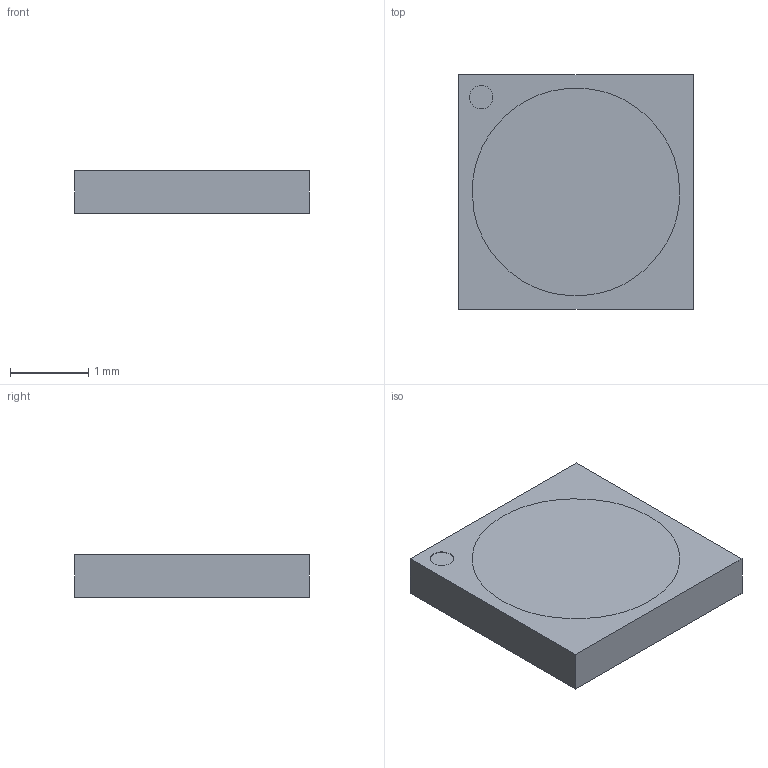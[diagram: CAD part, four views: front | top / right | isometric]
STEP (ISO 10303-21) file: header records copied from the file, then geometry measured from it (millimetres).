
FILE_DESCRIPTION (( 'STEP AP214' ), '1' );
FILE_NAME ('LWEB.STEP', '2024-01-24T19:59:50', ( '' ), ( '' ), 'SwSTEP 2.0', 'SolidWorks 2022', '' );
FILE_SCHEMA (( 'AUTOMOTIVE_DESIGN' ));
Length unit declared in the file: millimetre
Products named in the file (1): LWEB
Bounding box: 3 x 3 x 0.54 mm (x, y, z)
Volume: 4.9 mm3; surface area: 24.5 mm2
Topology: 1 solids, 1 shells, 12 faces, 28 edges, 22 vertices
Faces by surface type: plane 10, cylinder 2
Entity records: 513 total; most frequent: CARTESIAN_POINT 91, DIRECTION 56, ORIENTED_EDGE 56, EDGE_CURVE 28, VERTEX_POINT 22, VECTOR 22, LINE 22, AXIS2_PLACEMENT_3D 17
